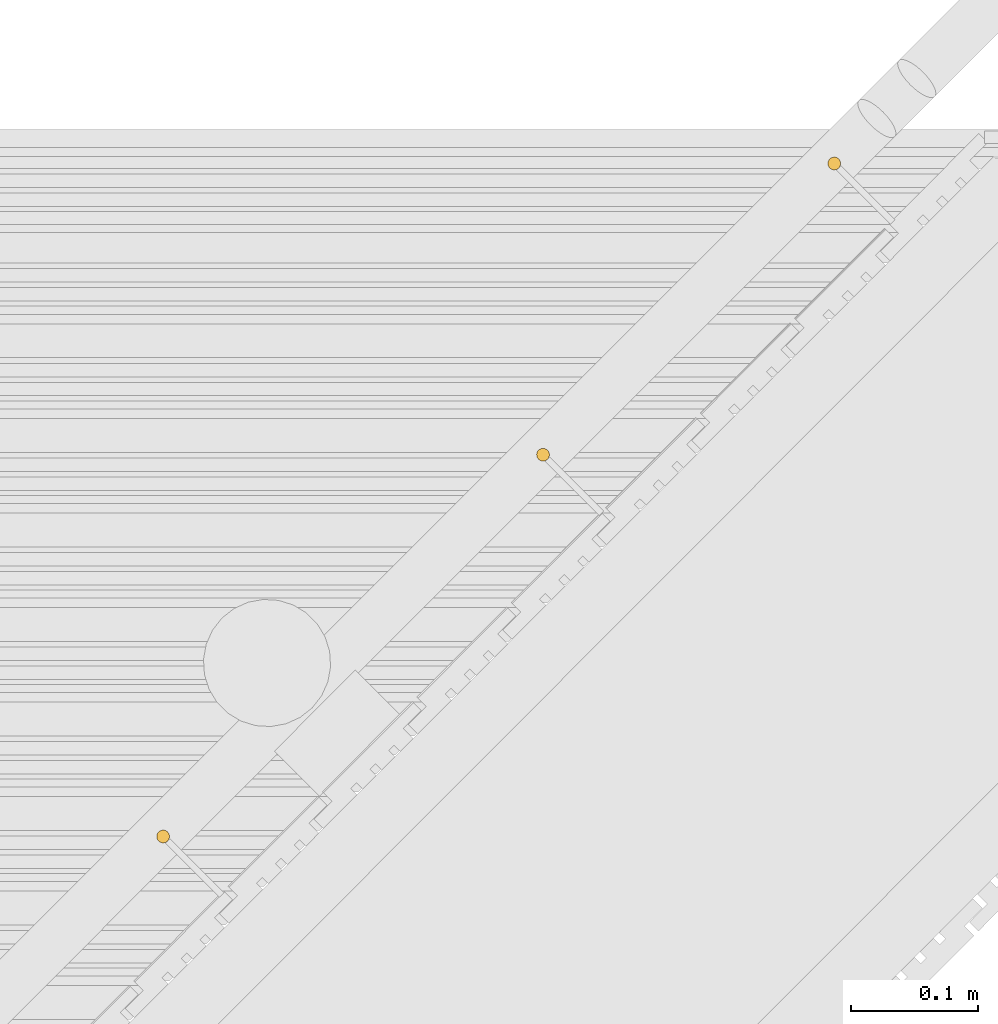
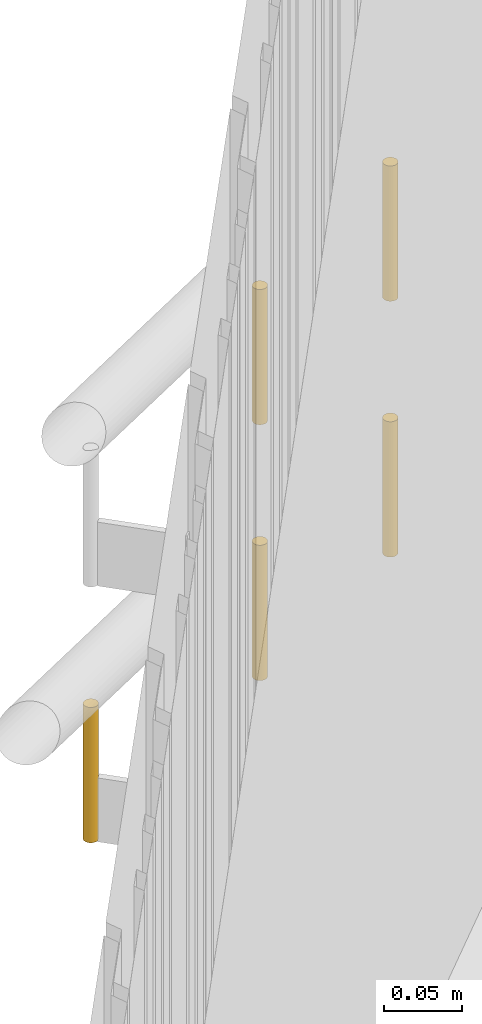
# One storey, part 164 of 418: 5 railings.
"""IFC2X3 building model written with IfcOpenShell, lengths in millimetres."""

import ifcopenshell
import ifcopenshell.guid

model = None  # the IFC model being written
_history = None  # IfcOwnerHistory: only IFC2X3 demands one
_inside = {}  # id of a spatial element -> (the spatial element, [elements in it])
_under = {}  # id of a project, library or spatial element -> (it, [spatial elements below it])
_declared = {}  # id of a project -> (the project, [libraries it declares])
_typed = {}  # id of a type object -> (the type object, [elements of that type])
_made_of = {}  # id of a material, layer set ... -> (it, [elements and type objects made of it])


def new_model(schema):
    """Start an empty IFC model of exactly this schema.

    Asked for "IFC4X3", IfcOpenShell would pick the latest addendum, in which some entities
    have other attributes; the version numbers below select the first issue.
    IFC2X3 requires an IfcOwnerHistory on every rooted entity: one is made here for all.
    """
    global model, _history
    if schema == "IFC4X3":
        model = ifcopenshell.file(schema_version=(4, 3, 0, 0))
    else:
        model = ifcopenshell.file(schema=schema)
    _inside.clear()
    _under.clear()
    _declared.clear()
    _typed.clear()
    _made_of.clear()
    _history = None
    if model.schema == "IFC2X3":
        org = make("IfcOrganization", Name="unknown")
        user = make(
            "IfcPersonAndOrganization",
            ThePerson=make("IfcPerson", FamilyName="unknown"),
            TheOrganization=org,
        )
        app = make(
            "IfcApplication",
            ApplicationDeveloper=org,
            Version="unknown",
            ApplicationFullName="unknown",
            ApplicationIdentifier="unknown",
        )
        _history = make(
            "IfcOwnerHistory",
            OwningUser=user,
            OwningApplication=app,
            ChangeAction="ADDED",
            CreationDate=0,
        )
    return model


def make(cls, **values):
    """One entity of the class cls with the attributes given. An attribute that is None is left unset."""
    return model.create_entity(
        cls, **{name: value for name, value in values.items() if value is not None}
    )


def entity(cls, *values):
    """Any entity or typed value of the class cls, its attributes in the order of the schema. None: left unset."""
    e = model.create_entity(cls)
    for i, value in enumerate(values):
        if value is not None:
            e[i] = value
    return e


def rooted(cls, **values):
    """An entity with a GlobalId (a new one), such as an element, a storey or a relation."""
    return make(cls, GlobalId=ifcopenshell.guid.new(), OwnerHistory=_history, **values)


def si_unit(unit_type, name, prefix=None):
    """IfcSIUnit, for example si_unit("LENGTHUNIT", "METRE", prefix="MILLI")."""
    return make("IfcSIUnit", UnitType=unit_type, Prefix=prefix, Name=name)


def converted_unit(unit_type, name, factor, base, dimensions=None, offset=None):
    """IfcConversionBasedUnit, such as the inch: factor (a typed value) times the base unit."""
    return make(
        "IfcConversionBasedUnit"
        if offset is None
        else "IfcConversionBasedUnitWithOffset",
        ConversionOffset=offset,
        Dimensions=None
        if dimensions is None
        else entity("IfcDimensionalExponents", *dimensions),
        UnitType=unit_type,
        Name=name,
        ConversionFactor=make(
            "IfcMeasureWithUnit", ValueComponent=factor, UnitComponent=base
        ),
    )


def derived_unit(unit_type, elements):
    """IfcDerivedUnit: a product of units, each with its exponent."""
    return make(
        "IfcDerivedUnit",
        Elements=[
            make("IfcDerivedUnitElement", Unit=unit, Exponent=power)
            for unit, power in elements
        ],
        UnitType=unit_type,
    )


def money_unit(currency):
    """IfcMonetaryUnit."""
    return make("IfcMonetaryUnit", Currency=currency)


def assignment(units):
    """IfcUnitAssignment: the units of a project."""
    return None if units is None else make("IfcUnitAssignment", Units=units)


def point(xyz):
    """IfcCartesianPoint."""
    return None if xyz is None else make("IfcCartesianPoint", Coordinates=xyz)


def direction(xyz):
    """IfcDirection."""
    return None if xyz is None else make("IfcDirection", DirectionRatios=xyz)


def frame(location, z_axis=None, x_axis=None):
    """IfcAxis2Placement3D, a coordinate frame: its origin and axes. An axis left out is left unset."""
    return make(
        "IfcAxis2Placement3D",
        Location=point(location),
        Axis=direction(z_axis),
        RefDirection=direction(x_axis),
    )


def frame_2d(location, x_axis=None):
    """IfcAxis2Placement2D, a coordinate frame in the plane: its origin and x axis."""
    return make(
        "IfcAxis2Placement2D", Location=point(location), RefDirection=direction(x_axis)
    )


def origin_with_axes():
    """The frame at (0, 0, 0) with the z axis (0, 0, 1) and the x axis (1, 0, 0) written out."""
    return frame((0.0, 0.0, 0.0), z_axis=(0.0, 0.0, 1.0), x_axis=(1.0, 0.0, 0.0))


def origin_2d_with_axis():
    """The frame at (0, 0) in the plane with the x axis (1, 0) written out."""
    return frame_2d((0.0, 0.0), x_axis=(1.0, 0.0))


def place(relative_to, where):
    """IfcLocalPlacement: puts the frame where relative to a parent placement (None: the world)."""
    return make(
        "IfcLocalPlacement", PlacementRelTo=relative_to, RelativePlacement=where
    )


def context(
    kind, dimensions, precision=None, world=None, true_north=None, identifier=None
):
    """IfcGeometricRepresentationContext, for example the 3D "Model" context."""
    return make(
        "IfcGeometricRepresentationContext",
        ContextIdentifier=identifier,
        ContextType=kind,
        CoordinateSpaceDimension=dimensions,
        Precision=precision,
        WorldCoordinateSystem=world,
        TrueNorth=true_north,
    )


def subcontext(parent, identifier, kind, view, scale=None):
    """IfcGeometricRepresentationSubContext, for example "Body" below "Model"."""
    return make(
        "IfcGeometricRepresentationSubContext",
        ContextIdentifier=identifier,
        ContextType=kind,
        ParentContext=parent,
        TargetScale=scale,
        TargetView=view,
    )


def project(units=None, contexts=None):
    """IfcProject with its units and contexts."""
    return rooted(
        "IfcProject",
        Name="project",
        RepresentationContexts=contexts,
        UnitsInContext=assignment(units),
    )


def spatial(cls, under=None, at=None, **own):
    """A site, building, storey or space (cls), placed at a placement, below another one or the project."""
    s = rooted(cls, ObjectPlacement=at, **own)
    if under is not None:
        _under.setdefault(under.id(), (under, []))[1].append(s)
    return s


def profile(cls, at=None, kind="AREA", **sizes):
    """A parametric profile (cls). Its sizes go by their IFC names, for example OverallWidth=200.0."""
    return make(cls, ProfileType=kind, Position=at, **sizes)


def circle(**sizes):
    """IfcCircleProfileDef."""
    return profile("IfcCircleProfileDef", **sizes)


def extrude(swept, where, along, depth):
    """IfcExtrudedAreaSolid: the profile swept, set in the frame where, extruded along a direction by depth."""
    return make(
        "IfcExtrudedAreaSolid",
        SweptArea=swept,
        Position=where,
        ExtrudedDirection=direction(along),
        Depth=depth,
    )


def shape(context_of_items, identifier, shape_type, items):
    """IfcShapeRepresentation: the items that make up one representation, for example the "Body"."""
    return make(
        "IfcShapeRepresentation",
        ContextOfItems=context_of_items,
        RepresentationIdentifier=identifier,
        RepresentationType=shape_type,
        Items=items,
    )


def material(Name=None, Category=None):
    """IfcMaterial."""
    return make("IfcMaterial", Name=Name, Category=Category)


def made_of(thing, what):
    """Note that an element or type object is made of a material, layer set ...; save() writes the relation."""
    if what is not None:
        _made_of.setdefault(what.id(), (what, []))[1].append(thing)
    return thing


def type_object(cls, material=None, **own):
    """A type object (cls), such as IfcWallType, which elements share."""
    return made_of(rooted(cls, **own), material)


def element(
    cls,
    number,
    at=None,
    inside=None,
    cuts=None,
    type_object=None,
    material=None,
    context=None,
    identifier="Body",
    shape_type=None,
    held_by="IfcProductDefinitionShape",
    body=None,
    shapes=None,
    **own,
):
    """One element of the class cls, such as IfcWall. Its Tag is "e" and its number.

    at: its placement. inside: the storey or other place that contains it. cuts: it is an
    opening in that element (IfcRelVoidsElement). A single representation is given by context,
    identifier, shape_type and body (its items); several are given by shapes. held_by: the class
    of the entity that holds the representations. save() writes the other relations.
    """
    e = rooted(cls, Tag="e%d" % number, ObjectPlacement=at, **own)
    if body is not None:
        shapes = [shape(context, identifier, shape_type, body)]
    if shapes is not None:
        e.Representation = make(held_by, Representations=shapes)
    if inside is not None:
        _inside.setdefault(inside.id(), (inside, []))[1].append(e)
    if cuts is not None:
        rooted(
            "IfcRelVoidsElement", RelatingBuildingElement=cuts, RelatedOpeningElement=e
        )
    if type_object is not None:
        _typed.setdefault(type_object.id(), (type_object, []))[1].append(e)
    return made_of(e, material)


def aggregate(whole, parts):
    """IfcRelAggregates: a whole, such as a stair, and the parts it consists of."""
    return rooted("IfcRelAggregates", RelatingObject=whole, RelatedObjects=parts)


def save(model, path):
    """Write the relations noted so far, then the file.

    IfcRelAggregates (storeys below a building ...), IfcRelContainedInSpatialStructure (elements
    in a storey), IfcRelDefinesByType, IfcRelAssociatesMaterial and IfcRelDeclares: one each for
    every whole, place, type object, material and project.
    """
    for whole, parts in _under.values():
        aggregate(whole, parts)
    for where, things in _inside.values():
        rooted(
            "IfcRelContainedInSpatialStructure",
            RelatedElements=things,
            RelatingStructure=where,
        )
    for kind, things in _typed.values():
        rooted("IfcRelDefinesByType", RelatedObjects=things, RelatingType=kind)
    for what, things in _made_of.values():
        rooted("IfcRelAssociatesMaterial", RelatedObjects=things, RelatingMaterial=what)
    for by, libraries in _declared.values():
        rooted("IfcRelDeclares", RelatingContext=by, RelatedDefinitions=libraries)
    model.write(path)


model = new_model("IFC2X3")

# Units and contexts
model_context = context("Model", 3, precision=0.01, world=origin_with_axes(), true_north=direction((0.0, 1.0)))
body_context = subcontext(model_context, "Body", "Model", "MODEL_VIEW")
ifc_project = project(units=[si_unit("LENGTHUNIT", "METRE", prefix="MILLI"), si_unit("AREAUNIT", "SQUARE_METRE"), si_unit("VOLUMEUNIT", "CUBIC_METRE"), converted_unit("PLANEANGLEUNIT", "DEGREE", entity("IfcPlaneAngleMeasure", 0.0174532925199), si_unit("PLANEANGLEUNIT", "RADIAN"), dimensions=[0, 0, 0, 0, 0, 0, 0]), si_unit("SOLIDANGLEUNIT", "STERADIAN"), money_unit("EUR"), converted_unit("TIMEUNIT", "Year", entity("IfcTimeMeasure", 31556926.0), si_unit("TIMEUNIT", "SECOND"), dimensions=[0, 0, 1, 0, 0, 0, 0]), si_unit("MASSUNIT", "GRAM", prefix="KILO"), si_unit("THERMODYNAMICTEMPERATUREUNIT", "DEGREE_CELSIUS"), si_unit("LUMINOUSINTENSITYUNIT", "LUMEN"), si_unit("ENERGYUNIT", "JOULE", prefix="MEGA"), derived_unit("THERMALCONDUCTANCEUNIT", [(si_unit("POWERUNIT", "WATT"), 1), (si_unit("LENGTHUNIT", "METRE"), -1), (si_unit("THERMODYNAMICTEMPERATUREUNIT", "KELVIN"), -1)]), derived_unit("SPECIFICHEATCAPACITYUNIT", [(si_unit("ENERGYUNIT", "JOULE"), 1), (si_unit("MASSUNIT", "GRAM", prefix="KILO"), -1), (si_unit("THERMODYNAMICTEMPERATUREUNIT", "KELVIN"), -1)]), derived_unit("MASSDENSITYUNIT", [(si_unit("MASSUNIT", "GRAM", prefix="KILO"), 1), (si_unit("VOLUMEUNIT", "CUBIC_METRE"), -1)])], contexts=[model_context])

# Site, building, storey
site_placement = place(None, origin_with_axes())
site = spatial("IfcSite", under=ifc_project, at=site_placement, Name="Paldiski mnt 245/1, Tallinn, Harjumaa", CompositionType="COMPLEX")
building_placement = place(site_placement, origin_with_axes())
building = spatial("IfcBuilding", under=site, at=building_placement, Name="RKAS Hoone üldnimetus (kasutust iseloomustav) -> IFC Project Manager -> SOLIBRI", CompositionType="ELEMENT")
storey_placement = place(building_placement, origin_with_axes())
storey = spatial("IfcBuildingStorey", under=building, at=storey_placement, Name="Esimene korrus", CompositionType="ELEMENT", Elevation=0.0)

# Railings
ifc_material = material(Name="ET-07_Teras - Roostevaba")
railing_type = type_object("IfcRailingType", Name="ET-07_Teras - Roostevaba D10", PredefinedType="NOTDEFINED")
for number, where, z_axis, x_axis in (
    (1, (-47692.2655233, 39533.8243129, 388.309110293), (0.0, 0.0, 1.0), (0.707106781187, -0.707106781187, 0.0)),
    (2, (-47692.2655233, 39533.8243129, 187.887210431), (0.0, 0.0, 1.0), (0.707106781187, -0.707106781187, 0.0)),
    (3, (-47463.5259425, 39762.5638936, 65.8533843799), (0.0, 0.0, 1.0), (0.707106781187, -0.707106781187, 0.0)),
    (4, (-47463.5259425, 39762.5638936, 266.275284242), (0.0, 0.0, 1.0), (0.707106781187, -0.707106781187, 0.0)),
    (5, (-47990.6946236, 39233.939526, 347.113326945), (0.0, 0.0, 1.0), (0.707106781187, -0.707106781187, 0.0)),
):
    element("IfcRailing", number, at=place(storey_placement, frame(where, z_axis=z_axis, x_axis=x_axis)), inside=storey, type_object=railing_type, material=ifc_material, Name="Trepiire", PredefinedType="NOTDEFINED", context=body_context, shape_type="SweptSolid", body=[
        extrude(circle(Radius=5.0, at=origin_2d_with_axis()), frame((0.0, 0.0, 0.0), z_axis=(0.0, 0.0, -1.0), x_axis=(-1.0, 0.0, 0.0)), (0.0, 0.0, -1.0), 106.0),
    ])

save(model, "model.ifc")
